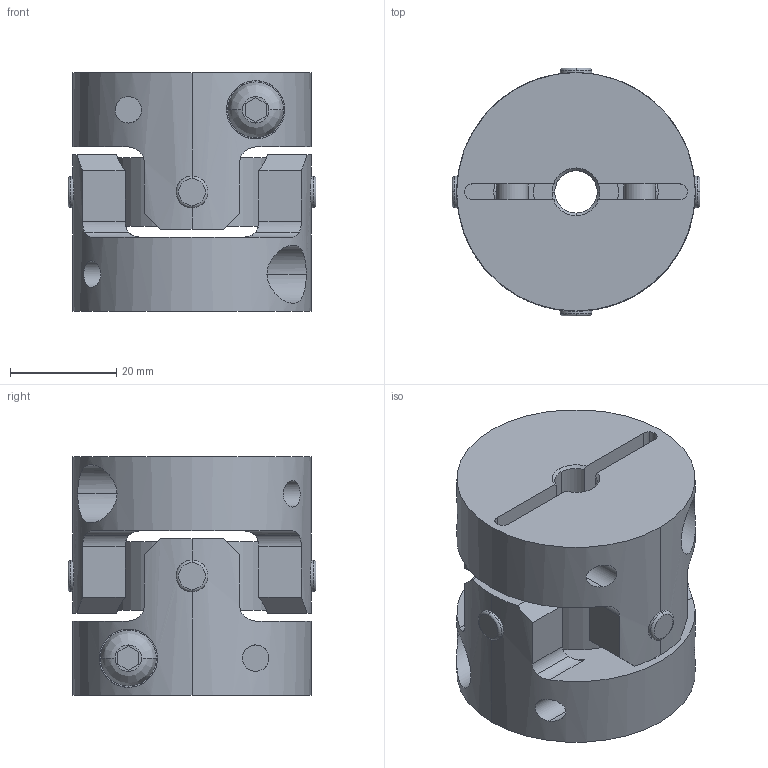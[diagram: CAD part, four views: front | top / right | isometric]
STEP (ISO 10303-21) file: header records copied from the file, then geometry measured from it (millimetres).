
FILE_DESCRIPTION((''),'2;1');
FILE_NAME('UA-45C-8×8.stp','2013-05-22T10:12:10',(''),(''),'AutoCAD STEP 2000i','AutoCAD 2000i',', , ');
FILE_SCHEMA(('CONFIG_CONTROL_DESIGN'));
Length unit declared in the file: millimetre
Products named in the file (6): UA-45C-8×8; 忣兜1; UA-4502-D08-1; BTN-M6; UA-4502-D08; UA45-SEN
Assembly tree (6 placements, depth 3):
  UA-45C-8×8
    忣兜1
    UA-4502-D08-1
      BTN-M6
    UA-4502-D08
      BTN-M6
    UA45-SEN
Bounding box: 46.73 x 46.73 x 45 mm (x, y, z)
Volume: 51696.3 mm3; surface area: 20363 mm2
Topology: 1 solids, 1 shells, 206 faces, 554 edges, 364 vertices
Faces by surface type: cylinder 96, plane 78, cone 16, bspline 8, torus 8
Entity records: 8523 total; most frequent: CARTESIAN_POINT 3207, ORIENTED_EDGE 1108, DIRECTION 1064, EDGE_CURVE 554, AXIS2_PLACEMENT_3D 409, VERTEX_POINT 364, VECTOR 246, LINE 246
